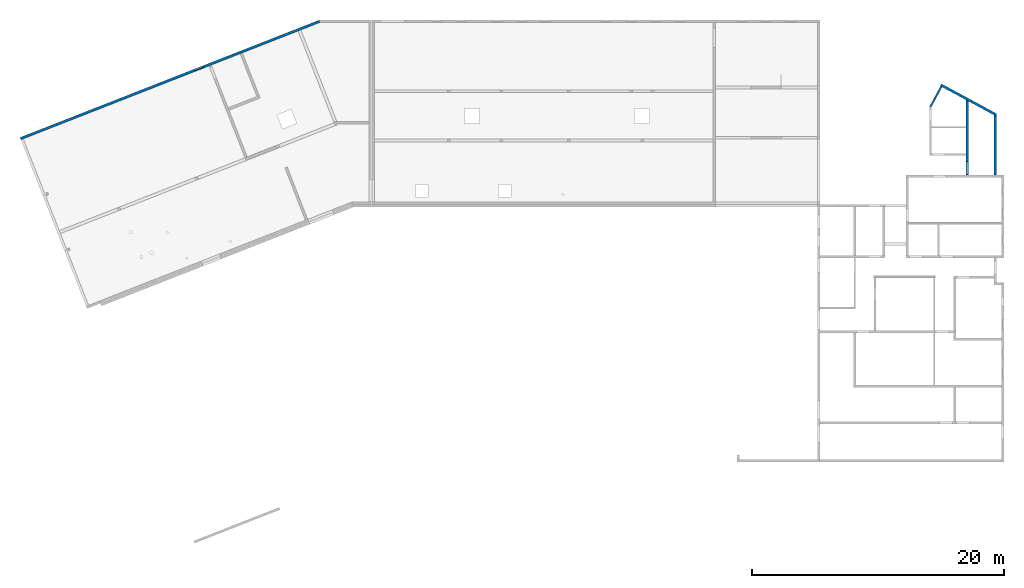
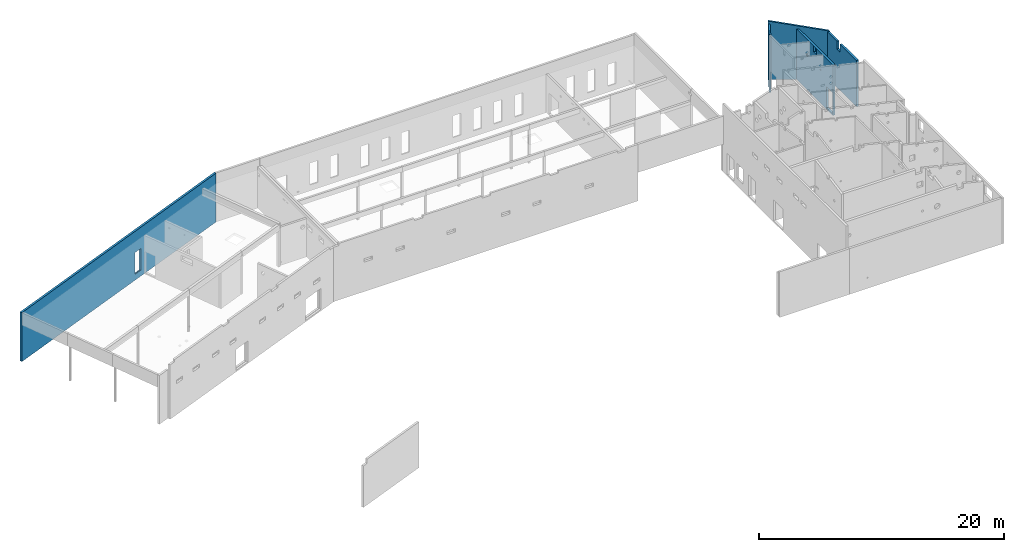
# One storey, part 12 of 13: 5 walls, 8 openings.
"""IFC2X3 building model written with IfcOpenShell, lengths in metres."""

from ifc_helpers import new_model, entity, si_unit, converted_unit, direction, frame, origin, origin_with_axes, place, context, subcontext, project, spatial, polyline, outline, extrude, clip, halfspace, faceted_brep, material, layer, layer_set, layer_usage, element, save


model = new_model("IFC2X3")

# Units and contexts
model_context = context("Model", 3, precision=1e-05, world=origin(), true_north=direction((-0.407059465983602, -0.913401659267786)))
body_context = subcontext(model_context, "Body", "Model", "MODEL_VIEW")
ifc_project = project(units=[si_unit("LENGTHUNIT", "METRE"), si_unit("AREAUNIT", "SQUARE_METRE"), si_unit("VOLUMEUNIT", "CUBIC_METRE"), si_unit("MASSUNIT", "GRAM", prefix="KILO"), converted_unit("PLANEANGLEUNIT", "DEGREE", entity("IfcPlaneAngleMeasure", 0.0174532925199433), si_unit("PLANEANGLEUNIT", "RADIAN"), dimensions=[0, 0, 0, 0, 0, 0, 0])], contexts=[model_context])

# Site, buildings, storey
site_placement = place(None, origin())
site = spatial("IfcSite", under=ifc_project, at=site_placement, Name="Site", CompositionType="ELEMENT")
building_1_placement = place(site_placement, origin())
building_1 = spatial("IfcBuilding", under=site, at=building_1_placement, Name="Site", CompositionType="COMPLEX")
building_2_placement = place(building_1_placement, origin())
building_2 = spatial("IfcBuilding", under=building_1, at=building_2_placement, Name="Bâtiments", CompositionType="ELEMENT")
storey_placement = place(building_2_placement, frame((0.0, 0.0, -0.14)))
storey = spatial("IfcBuildingStorey", under=building_2, at=storey_placement, Name="RDC", CompositionType="ELEMENT", Elevation=-0.14)

# Wall, opening
ifc_material_1 = material(Name="Béton")
wall_1_placement = place(storey_placement, frame((-0.0365246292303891, -0.0930910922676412, 0.0)))
wall_1 = element("IfcWall", 1, at=wall_1_placement, inside=storey, material=ifc_material_1, context=body_context, shape_type="Brep", body=[
    faceted_brep([(14.5119458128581, 5.8799969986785, 0.59), (13.8137626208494, 5.60606227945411, 0.59), (13.8612446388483, 5.48504385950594, 0.59), (14.559427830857, 5.75897857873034, 0.59), (14.559427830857, 5.75897857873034, 0.550000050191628), (13.8612446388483, 5.48504385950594, 0.550000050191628), (13.8137626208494, 5.60606227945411, 0.540000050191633), (14.5119458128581, 5.8799969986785, 0.540000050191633), (-1.81898940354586e-15, 0.186182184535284, 0.0), (23.7471892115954, 9.5034783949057, 0.0), (23.7471892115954, 9.5034783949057, 4.88), (-1.81898940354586e-15, 0.186182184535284, 4.88), (23.7850207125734, 9.3034783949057, 0.0), (23.7850207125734, 9.3034783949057, 4.88), (0.07304925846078, -9.09494701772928e-16, 0.0), (0.07304925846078, -9.09494701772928e-16, 4.88)], [[[0, 1, 2, 3]], [[4, 5, 6, 7]], [[3, 4, 7, 0]], [[1, 6, 5, 2]], [[2, 5, 4, 3]], [[8, 9, 10, 11], [6, 1, 0, 7]], [[9, 12, 13, 10]], [[12, 14, 15, 13]], [[14, 8, 11, 15]], [[15, 11, 10, 13]], [[8, 14, 12, 9]]], orient=[[False], [False], [False], [False], [False], [False, False], [False], [False], [False], [False], [False]]),
])
opening_1_placement = place(wall_1_placement, frame((13.8868118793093, 5.41988009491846, 0.59), z_axis=(-0.365246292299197, 0.93091092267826, 0.0), x_axis=(0.0, 0.0, 1.0)))
element("IfcOpeningElement", 2, at=opening_1_placement, cuts=wall_1, Name="Baie de fenêtre", ObjectType="Opening", context=body_context, shape_type="SweptSolid", body=[
    extrude(outline(polyline([(0.0, 0.750000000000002), (2.17, 0.750000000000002), (2.17, 0.0), (0.0, 0.0), (0.0, 0.750000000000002)])), origin_with_axes(), (0.0, 0.0, 1.0), 0.199999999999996),
])

# Wall
ifc_material_2 = material(Name="Béton")
ifc_layer_1 = layer(ifc_material_2, 0.199999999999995)
ifc_layer_set_1 = layer_set([ifc_layer_1])
ifc_layer_usage_1 = layer_usage(ifc_layer_set_1, "AXIS2", "POSITIVE", -0.199999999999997)
wall_2_placement = place(storey_placement, frame((77.4132550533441, 1.99249472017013, 0.02), z_axis=(0.0, 0.0, 1.0), x_axis=(-0.879689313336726, 0.475548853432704, 0.0)))
element("IfcWallStandardCase", 3, at=wall_2_placement, inside=storey, material=ifc_layer_usage_1, context=body_context, shape_type="Clipping", body=[
    clip(extrude(outline(polyline([(-3.81057757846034, -2.31839669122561), (1.14517830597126, -2.31839669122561), (1.14517830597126, -2.11839669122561), (-3.91869503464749, -2.1183966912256), (-3.81057757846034, -2.31839669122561)])), frame((3.81057757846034, 2.31839669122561, 0.0), z_axis=(0.0, 0.0, 1.0), x_axis=(1.0, 0.0, 0.0)), (0.0, 0.0, 1.0), 5.85160178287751), halfspace(frame((2.45084857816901, 0.100000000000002, 5.29867980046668), z_axis=(0.209835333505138, 0.113434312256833, -0.971134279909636), x_axis=(0.977443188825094, 0.0, 0.211198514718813)), True)),
])

# Wall, openings
ifc_material_3 = material(Name="Béton")
ifc_layer_2 = layer(ifc_material_3, 0.2)
ifc_layer_set_2 = layer_set([ifc_layer_2])
ifc_layer_usage_2 = layer_usage(ifc_layer_set_2, "AXIS2", "POSITIVE", -0.199999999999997)
wall_3_placement = place(storey_placement, frame((75.1973032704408, -2.89543239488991, 0.02), z_axis=(0.0, 0.0, 1.0), x_axis=(0.0, 1.0, 0.0)))
wall_3 = element("IfcWallStandardCase", 4, at=wall_3_placement, inside=storey, material=ifc_layer_usage_2, context=body_context, shape_type="SweptSolid", body=[
    extrude(outline(polyline([(8.91990303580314e-06, -0.2), (5.85849838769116, -0.2), (5.9666158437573, 0.0), (0.0, 0.0), (8.91990303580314e-06, -0.2)])), frame((-8.91990303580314e-06, 0.2, 0.0), z_axis=(0.0, 0.0, 1.0), x_axis=(1.0, 0.0, 0.0)), (0.0, 0.0, 1.0), 5.04172838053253),
])
opening_2_placement = place(wall_3_placement, frame((4.35638465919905, 0.2, 3.34), z_axis=(0.0, -1.0, 0.0), x_axis=(0.0, 0.0, 1.0)))
element("IfcOpeningElement", 5, at=opening_2_placement, cuts=wall_3, Name="CVC-074", ObjectType="Opening", context=body_context, shape_type="SweptSolid", body=[
    extrude(outline(polyline([(0.124999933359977, 0.0), (0.111933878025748, 0.000684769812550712), (0.0990109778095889, 0.00273156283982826), (0.0863728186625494, 0.00611795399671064), (0.0741578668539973, 0.010806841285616), (0.0624999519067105, 0.016746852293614), (0.0515268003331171, 0.023872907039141), (0.0413586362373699, 0.0321069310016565), (0.0321068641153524, 0.0413587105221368), (0.0238728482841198, 0.0515268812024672), (0.0167468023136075, 0.0625000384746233), (0.0108068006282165, 0.0741579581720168), (0.00611792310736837, 0.0863729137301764), (0.00273154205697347, 0.0990110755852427), (0.000684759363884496, 0.111933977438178), (0.0, 0.125000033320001), (0.000684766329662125, 0.138066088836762), (0.0027315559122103, 0.150988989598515), (0.00611794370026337, 0.163627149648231), (0.0108068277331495, 0.175842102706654), (0.0167468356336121, 0.187500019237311), (0.0238728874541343, 0.198473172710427), (0.0321069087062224, 0.208641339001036), (0.0413586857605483, 0.217893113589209), (0.0515268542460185, 0.22612713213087), (0.0625000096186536, 0.233253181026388), (0.0741579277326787, 0.239193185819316), (0.0863728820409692, 0.243882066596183), (0.0990110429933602, 0.247268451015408), (0.111933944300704, 0.249315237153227), (0.124999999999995, 0.25), (0.138066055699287, 0.249315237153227), (0.150988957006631, 0.247268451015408), (0.163627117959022, 0.243882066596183), (0.175842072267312, 0.239193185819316), (0.187499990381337, 0.233253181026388), (0.198473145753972, 0.22612713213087), (0.208641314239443, 0.217893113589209), (0.217893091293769, 0.208641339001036), (0.226127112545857, 0.198473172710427), (0.233253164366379, 0.187500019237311), (0.239193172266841, 0.175842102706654), (0.243882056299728, 0.163627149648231), (0.247268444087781, 0.150988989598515), (0.249315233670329, 0.138066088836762), (0.249999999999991, 0.125000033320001), (0.249315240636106, 0.111933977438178), (0.247268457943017, 0.0990110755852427), (0.243882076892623, 0.0863729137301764), (0.239193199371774, 0.0741579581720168), (0.233253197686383, 0.0625000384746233), (0.226127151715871, 0.0515268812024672), (0.217893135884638, 0.0413587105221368), (0.208641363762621, 0.0321069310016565), (0.198473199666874, 0.023872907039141), (0.18750004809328, 0.016746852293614), (0.175842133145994, 0.010806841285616), (0.163627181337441, 0.00611795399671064), (0.150989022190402, 0.00273156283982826), (0.138066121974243, 0.000684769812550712), (0.124999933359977, 0.0)])), origin_with_axes(), (0.0, 0.0, 1.0), 0.2),
])
opening_3_placement = place(wall_3_placement, frame((3.19347530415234, 0.2, 4.42), z_axis=(-2.27373675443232e-15, -1.0, 0.0), x_axis=(0.0, 0.0, 1.0)))
element("IfcOpeningElement", 6, at=opening_3_placement, cuts=wall_3, Name="Percement dans mur", ObjectType="Opening", context=body_context, shape_type="SweptSolid", body=[
    extrude(outline(polyline([(0.0, 0.5), (0.62, 0.5), (0.62, 0.0), (0.0, 0.0), (0.0, 0.5)])), origin_with_axes(), (0.0, 0.0, 1.0), 0.2),
])
opening_4_placement = place(wall_3_placement, frame((2.12404042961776, 0.2, 3.27), z_axis=(0.0, -1.0, 0.0), x_axis=(0.0, 0.0, 1.0)))
element("IfcOpeningElement", 7, at=opening_4_placement, cuts=wall_3, Name="PB-RDC-20", ObjectType="Opening", context=body_context, shape_type="SweptSolid", body=[
    extrude(outline(polyline([(0.0, 0.2), (0.1, 0.2), (0.1, 0.0), (0.0, 0.0), (0.0, 0.2)])), origin_with_axes(), (0.0, 0.0, 1.0), 0.2),
])
opening_5_placement = place(wall_3_placement, frame((0.0605096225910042, 0.0, 0.12), z_axis=(0.0, 1.0, 0.0), x_axis=(0.0, 0.0, 1.0)))
element("IfcOpeningElement", 8, at=opening_5_placement, cuts=wall_3, Name="Baie de porte", ObjectType="Opening", context=body_context, shape_type="SweptSolid", body=[
    extrude(outline(polyline([(0.0, 1.03), (2.1, 1.03), (2.1, 0.0), (0.0, 0.0), (0.0, 1.03)])), origin_with_axes(), (0.0, 0.0, 1.0), 0.2),
])

ifc_material_4 = material(Name="Mur_Maconnerie")
ifc_layer_3 = layer(ifc_material_4, 0.150000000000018)
ifc_layer_set_3 = layer_set([ifc_layer_3])
ifc_layer_usage_3 = layer_usage(ifc_layer_set_3, "AXIS2", "POSITIVE", -0.150000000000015)
wall_4_placement = place(storey_placement, frame((72.2539888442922, 2.51186617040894, 0.02), z_axis=(0.0, 0.0, 1.0), x_axis=(0.475551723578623, 0.879687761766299, 0.0)))
wall_4 = element("IfcWallStandardCase", 9, at=wall_4_placement, inside=storey, material=ifc_layer_usage_3, context=body_context, shape_type="Clipping", body=[
    clip(extrude(outline(polyline([(0.0713327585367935, -0.131953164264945), (1.86793037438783, -0.131953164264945), (1.86792988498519, 0.0180468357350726), (0.0333834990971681, 0.0180468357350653), (0.0713327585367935, -0.131953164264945)])), frame((-0.0713327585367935, 0.131953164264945, 0.0), z_axis=(0.0, 0.0, 1.0), x_axis=(1.0, 0.0, 0.0)), (0.0, 0.0, 1.0), 5.80151927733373), halfspace(frame((0.888811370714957, 0.0750000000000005, 5.67706201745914), z_axis=(-0.113434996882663, 0.209834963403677, -0.971134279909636), x_axis=(0.993247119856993, -5.55111512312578e-17, -0.116017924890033)), True)),
])
opening_6_placement = place(wall_4_placement, frame((1.3952595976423, 3.76303432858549e-14, 4.02000000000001), z_axis=(-4.54747350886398e-14, 1.0, 0.0), x_axis=(0.0, 0.0, 1.0)))
element("IfcOpeningElement", 10, at=opening_6_placement, cuts=wall_4, Name="CVC-070", ObjectType="Opening", context=body_context, shape_type="SweptSolid", body=[
    extrude(outline(polyline([(0.0999999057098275, 0.0), (0.0895470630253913, 0.000547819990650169), (0.0792087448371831, 0.0021852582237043), (0.0690982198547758, 0.00489437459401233), (0.0593262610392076, 0.00864548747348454), (0.0499999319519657, 0.0133974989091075), (0.0412214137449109, 0.0190983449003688), (0.0330868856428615, 0.0256855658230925), (0.0256854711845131, 0.0330869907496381), (0.0190982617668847, 0.0412215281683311), (0.0133974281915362, 0.0500000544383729), (0.00864542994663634, 0.0593263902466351), (0.00489433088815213, 0.0690983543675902), (0.00218522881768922, 0.0792088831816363), (0.000547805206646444, 0.0895472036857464), (0.0, 0.100000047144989), (0.000547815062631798, 0.11045289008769), (0.00218524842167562, 0.120791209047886), (0.00489436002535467, 0.130901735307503), (0.00864546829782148, 0.140673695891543), (0.013397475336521, 0.150000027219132), (0.0190983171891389, 0.158778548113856), (0.0256855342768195, 0.166913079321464), (0.0330869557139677, 0.174314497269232), (0.0412214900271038, 0.180901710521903), (0.0500000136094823, 0.186602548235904), (0.0593263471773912, 0.191354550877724), (0.0690983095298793, 0.195105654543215), (0.0792088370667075, 0.197814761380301), (0.0895471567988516, 0.199452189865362), (0.0999999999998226, 0.200000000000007), (0.110452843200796, 0.199452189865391), (0.120791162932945, 0.197814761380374), (0.130901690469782, 0.195105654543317), (0.140673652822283, 0.191354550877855), (0.149999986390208, 0.186602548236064), (0.158778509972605, 0.180901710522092), (0.166913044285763, 0.17431449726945), (0.174314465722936, 0.166913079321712), (0.180901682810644, 0.158778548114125), (0.186602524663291, 0.150000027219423), (0.191354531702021, 0.140673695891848), (0.195105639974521, 0.130901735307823), (0.197814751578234, 0.120791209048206), (0.199452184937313, 0.110452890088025), (0.199999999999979, 0.100000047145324), (0.199452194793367, 0.089547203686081), (0.197814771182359, 0.0792088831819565), (0.195105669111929, 0.0690983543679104), (0.191354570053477, 0.0593263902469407), (0.186602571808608, 0.0500000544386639), (0.180901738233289, 0.0412215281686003), (0.174314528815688, 0.0330869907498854), (0.166913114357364, 0.0256855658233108), (0.158778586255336, 0.019098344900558), (0.150000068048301, 0.0133974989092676), (0.140673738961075, 0.0086454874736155), (0.130901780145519, 0.0048943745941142), (0.120791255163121, 0.00218525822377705), (0.110452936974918, 0.000547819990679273), (0.0999999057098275, 0.0)])), origin_with_axes(), (0.0, 0.0, 1.0), 0.150000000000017),
])
opening_7_placement = place(wall_4_placement, frame((1.79659761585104, 0.150000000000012, 5.22), z_axis=(0.0, 0.0, 1.0), x_axis=(-1.0, 2.10952013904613e-14, 0.0)))
element("IfcOpeningElement", 11, at=opening_7_placement, cuts=wall_4, Name="Percement dans mur", ObjectType="Opening", context=body_context, shape_type="SweptSolid", body=[
    extrude(outline(polyline([(4.89402640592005e-07, -5.9409111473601e-15), (0.450000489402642, -1.30739863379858e-15), (0.450000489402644, 0.150000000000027), (1.76925141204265e-15, 0.150000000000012), (4.89402640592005e-07, -5.9409111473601e-15)])), origin_with_axes(), (0.0, 0.0, 1.0), 0.2),
])

# Wall, opening
ifc_material_5 = material(Name="Béton")
ifc_layer_4 = layer(ifc_material_5, 0.199999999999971)
ifc_layer_set_4 = layer_set([ifc_layer_4])
ifc_layer_usage_4 = layer_usage(ifc_layer_set_4, "AXIS2", "POSITIVE", -0.199999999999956)
wall_5_placement = place(storey_placement, frame((77.2132550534, 1.87325918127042, 0.12), z_axis=(0.0, 0.0, 1.0), x_axis=(4.68217763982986e-10, -1.0, 0.0)))
wall_5 = element("IfcWallStandardCase", 12, at=wall_5_placement, inside=storey, material=ifc_layer_usage_4, context=body_context, shape_type="SweptSolid", body=[
    extrude(outline(polyline([(-4.76860173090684, 2.2327440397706e-09), (-6.52187700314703e-08, 2.2327440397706e-09), (9.36435538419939e-11, 0.200000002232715), (-4.6604842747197, 0.200000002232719), (-4.76860173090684, 2.2327440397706e-09)])), frame((4.76860173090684, -2.2327440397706e-09, 0.0), z_axis=(0.0, 0.0, 1.0), x_axis=(1.0, 0.0, 0.0)), (0.0, 0.0, 1.0), 4.60656312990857),
])
opening_8_placement = place(wall_5_placement, frame((1.57520018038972, -1.98676835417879e-15, 3.82), z_axis=(-3.41060513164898e-15, 1.0, 0.0), x_axis=(0.0, 0.0, 1.0)))
element("IfcOpeningElement", 13, at=opening_8_placement, cuts=wall_5, Name="Percement dans mur", ObjectType="Opening", context=body_context, shape_type="SweptSolid", body=[
    extrude(outline(polyline([(0.0, 0.5), (0.79, 0.5), (0.79, 0.0), (0.0, 0.0), (0.0, 0.5)])), origin_with_axes(), (0.0, 0.0, 1.0), 0.199999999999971),
])

save(model, "model.ifc")
